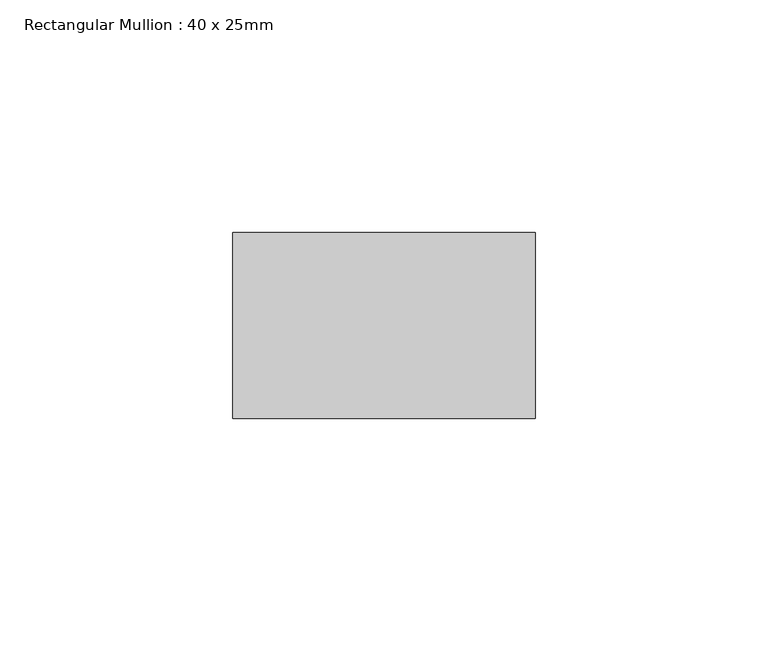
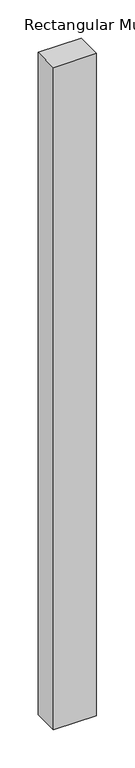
"""IFC4 building model written with IfcOpenShell, lengths in millimetres: member geometry, Rectangular Mullion : 40 x 25mm."""

import ifcopenshell
import ifcopenshell.guid

model = None  # the IFC model being written
_history = None  # IfcOwnerHistory: only IFC2X3 demands one
_inside = {}  # id of a spatial element -> (the spatial element, [elements in it])
_under = {}  # id of a project, library or spatial element -> (it, [spatial elements below it])
_declared = {}  # id of a project -> (the project, [libraries it declares])
_typed = {}  # id of a type object -> (the type object, [elements of that type])
_made_of = {}  # id of a material, layer set ... -> (it, [elements and type objects made of it])


def new_model(schema):
    """Start an empty IFC model of exactly this schema.

    Asked for "IFC4X3", IfcOpenShell would pick the latest addendum, in which some entities
    have other attributes; the version numbers below select the first issue.
    IFC2X3 requires an IfcOwnerHistory on every rooted entity: one is made here for all.
    """
    global model, _history
    if schema == "IFC4X3":
        model = ifcopenshell.file(schema_version=(4, 3, 0, 0))
    else:
        model = ifcopenshell.file(schema=schema)
    _inside.clear()
    _under.clear()
    _declared.clear()
    _typed.clear()
    _made_of.clear()
    _history = None
    if model.schema == "IFC2X3":
        org = make("IfcOrganization", Name="unknown")
        user = make(
            "IfcPersonAndOrganization",
            ThePerson=make("IfcPerson", FamilyName="unknown"),
            TheOrganization=org,
        )
        app = make(
            "IfcApplication",
            ApplicationDeveloper=org,
            Version="unknown",
            ApplicationFullName="unknown",
            ApplicationIdentifier="unknown",
        )
        _history = make(
            "IfcOwnerHistory",
            OwningUser=user,
            OwningApplication=app,
            ChangeAction="ADDED",
            CreationDate=0,
        )
    return model


def make(cls, **values):
    """One entity of the class cls with the attributes given. An attribute that is None is left unset."""
    return model.create_entity(
        cls, **{name: value for name, value in values.items() if value is not None}
    )


def rooted(cls, **values):
    """An entity with a GlobalId (a new one), such as an element, a storey or a relation."""
    return make(cls, GlobalId=ifcopenshell.guid.new(), OwnerHistory=_history, **values)


def si_unit(unit_type, name, prefix=None):
    """IfcSIUnit, for example si_unit("LENGTHUNIT", "METRE", prefix="MILLI")."""
    return make("IfcSIUnit", UnitType=unit_type, Prefix=prefix, Name=name)


def assignment(units):
    """IfcUnitAssignment: the units of a project."""
    return None if units is None else make("IfcUnitAssignment", Units=units)


def point(xyz):
    """IfcCartesianPoint."""
    return None if xyz is None else make("IfcCartesianPoint", Coordinates=xyz)


def direction(xyz):
    """IfcDirection."""
    return None if xyz is None else make("IfcDirection", DirectionRatios=xyz)


def frame(location, z_axis=None, x_axis=None):
    """IfcAxis2Placement3D, a coordinate frame: its origin and axes. An axis left out is left unset."""
    return make(
        "IfcAxis2Placement3D",
        Location=point(location),
        Axis=direction(z_axis),
        RefDirection=direction(x_axis),
    )


def origin():
    """The frame at (0, 0, 0) with its axes left unset."""
    return frame((0.0, 0.0, 0.0))


def place(relative_to, where):
    """IfcLocalPlacement: puts the frame where relative to a parent placement (None: the world)."""
    return make(
        "IfcLocalPlacement", PlacementRelTo=relative_to, RelativePlacement=where
    )


def context(
    kind, dimensions, precision=None, world=None, true_north=None, identifier=None
):
    """IfcGeometricRepresentationContext, for example the 3D "Model" context."""
    return make(
        "IfcGeometricRepresentationContext",
        ContextIdentifier=identifier,
        ContextType=kind,
        CoordinateSpaceDimension=dimensions,
        Precision=precision,
        WorldCoordinateSystem=world,
        TrueNorth=true_north,
    )


def project(units=None, contexts=None):
    """IfcProject with its units and contexts."""
    return rooted(
        "IfcProject",
        Name="project",
        RepresentationContexts=contexts,
        UnitsInContext=assignment(units),
    )


def spatial(cls, under=None, at=None, **own):
    """A site, building, storey or space (cls), placed at a placement, below another one or the project."""
    s = rooted(cls, ObjectPlacement=at, **own)
    if under is not None:
        _under.setdefault(under.id(), (under, []))[1].append(s)
    return s


def polyline(points):
    """IfcPolyline through the points."""
    return make("IfcPolyline", Points=[point(p) for p in points])


def outline(outer, holes=None, kind="AREA"):
    """IfcArbitraryClosedProfileDef: a profile drawn as a closed curve; with holes, ...WithVoids."""
    if holes is None:
        return make("IfcArbitraryClosedProfileDef", ProfileType=kind, OuterCurve=outer)
    return make(
        "IfcArbitraryProfileDefWithVoids",
        ProfileType=kind,
        OuterCurve=outer,
        InnerCurves=holes,
    )


def extrude(swept, where, along, depth):
    """IfcExtrudedAreaSolid: the profile swept, set in the frame where, extruded along a direction by depth."""
    return make(
        "IfcExtrudedAreaSolid",
        SweptArea=swept,
        Position=where,
        ExtrudedDirection=direction(along),
        Depth=depth,
    )


def shape(context_of_items, identifier, shape_type, items):
    """IfcShapeRepresentation: the items that make up one representation, for example the "Body"."""
    return make(
        "IfcShapeRepresentation",
        ContextOfItems=context_of_items,
        RepresentationIdentifier=identifier,
        RepresentationType=shape_type,
        Items=items,
    )


def source(mapping_origin, context_of_items, identifier, shape_type, items):
    """IfcRepresentationMap: a shape defined once, which mapped items show again and again."""
    return make(
        "IfcRepresentationMap",
        MappingOrigin=mapping_origin,
        MappedRepresentation=shape(context_of_items, identifier, shape_type, items),
    )


def transform(
    local_origin,
    x_axis=None,
    y_axis=None,
    z_axis=None,
    scale=None,
    scale2=None,
    scale3=None,
    uniform=True,
):
    """IfcCartesianTransformationOperator3D, or its non-uniform kind. x_axis, y_axis, z_axis: its Axis1, 2, 3."""
    if uniform:
        return make(
            "IfcCartesianTransformationOperator3D",
            Axis1=direction(x_axis),
            Axis2=direction(y_axis),
            LocalOrigin=point(local_origin),
            Scale=scale,
            Axis3=direction(z_axis),
        )
    return make(
        "IfcCartesianTransformationOperator3DnonUniform",
        Axis1=direction(x_axis),
        Axis2=direction(y_axis),
        LocalOrigin=point(local_origin),
        Scale=scale,
        Axis3=direction(z_axis),
        Scale2=scale2,
        Scale3=scale3,
    )


def mapped(mapping_source, mapping_target):
    """IfcMappedItem: shows the shape of a source again, moved by a transform."""
    return make(
        "IfcMappedItem", MappingSource=mapping_source, MappingTarget=mapping_target
    )


def made_of(thing, what):
    """Note that an element or type object is made of a material, layer set ...; save() writes the relation."""
    if what is not None:
        _made_of.setdefault(what.id(), (what, []))[1].append(thing)
    return thing


def element(
    cls,
    number,
    at=None,
    inside=None,
    cuts=None,
    type_object=None,
    material=None,
    context=None,
    identifier="Body",
    shape_type=None,
    held_by="IfcProductDefinitionShape",
    body=None,
    shapes=None,
    **own,
):
    """One element of the class cls, such as IfcWall. Its Tag is "e" and its number.

    at: its placement. inside: the storey or other place that contains it. cuts: it is an
    opening in that element (IfcRelVoidsElement). A single representation is given by context,
    identifier, shape_type and body (its items); several are given by shapes. held_by: the class
    of the entity that holds the representations. save() writes the other relations.
    """
    e = rooted(cls, Tag="e%d" % number, ObjectPlacement=at, **own)
    if body is not None:
        shapes = [shape(context, identifier, shape_type, body)]
    if shapes is not None:
        e.Representation = make(held_by, Representations=shapes)
    if inside is not None:
        _inside.setdefault(inside.id(), (inside, []))[1].append(e)
    if cuts is not None:
        rooted(
            "IfcRelVoidsElement", RelatingBuildingElement=cuts, RelatedOpeningElement=e
        )
    if type_object is not None:
        _typed.setdefault(type_object.id(), (type_object, []))[1].append(e)
    return made_of(e, material)


def aggregate(whole, parts):
    """IfcRelAggregates: a whole, such as a stair, and the parts it consists of."""
    return rooted("IfcRelAggregates", RelatingObject=whole, RelatedObjects=parts)


def save(model, path):
    """Write the relations noted so far, then the file.

    IfcRelAggregates (storeys below a building ...), IfcRelContainedInSpatialStructure (elements
    in a storey), IfcRelDefinesByType, IfcRelAssociatesMaterial and IfcRelDeclares: one each for
    every whole, place, type object, material and project.
    """
    for whole, parts in _under.values():
        aggregate(whole, parts)
    for where, things in _inside.values():
        rooted(
            "IfcRelContainedInSpatialStructure",
            RelatedElements=things,
            RelatingStructure=where,
        )
    for kind, things in _typed.values():
        rooted("IfcRelDefinesByType", RelatedObjects=things, RelatingType=kind)
    for what, things in _made_of.values():
        rooted("IfcRelAssociatesMaterial", RelatedObjects=things, RelatingMaterial=what)
    for by, libraries in _declared.values():
        rooted("IfcRelDeclares", RelatingContext=by, RelatedDefinitions=libraries)
    model.write(path)


def rectangular_mullion_40_x_25mm_c7ccfea2(model_context):
    return source(origin(), model_context, "Body", "SweptSolid", [
        extrude(outline(polyline([(0.0, -20.0), (0.0, -60.0), (-65.0, -60.0), (-65.0, -20.0), (0.0, -20.0)])), frame((0.0, 0.0, -1058.555369), z_axis=(0.0, 0.0, 1.0), x_axis=(1.0, 0.0, 0.0)), (0.0, 0.0, 1.0), 1058.555369),
    ])


if __name__ == "__main__":
    model = new_model("IFC4")
    model_context = context("Model", 3, world=origin())
    ifc_project = project(units=[si_unit("LENGTHUNIT", "METRE", prefix="MILLI")], contexts=[model_context])
    site = spatial("IfcSite", under=ifc_project)
    building = spatial("IfcBuilding", under=site)
    placement = place(None, origin())
    rectangular_mullion_40_x_25mm_shape = rectangular_mullion_40_x_25mm_c7ccfea2(model_context)
    element("IfcMember", 1, ObjectType="Rectangular Mullion : 40 x 25mm", at=placement, inside=building, context=model_context, shape_type="MappedRepresentation", body=[
        mapped(rectangular_mullion_40_x_25mm_shape, transform((0.0, 0.0, 0.0), x_axis=(1.0, 0.0, 0.0), y_axis=(0.0, 1.0, 0.0), z_axis=(0.0, 0.0, 1.0))),
    ])
    save(model, "model.ifc")
